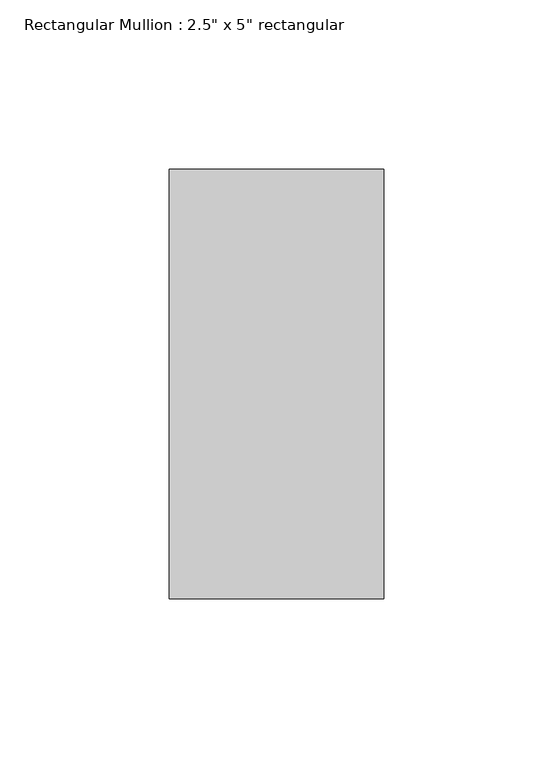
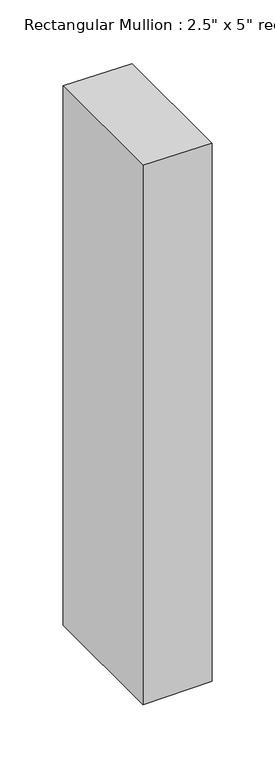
"""IFC4 building model written with IfcOpenShell, lengths in millimetres: member geometry."""

from ifc_helpers import new_model, si_unit, frame, origin, place, context, project, spatial, polyline, outline, extrude, source, transform, mapped, element, save


def member_6a3a2a88(model_context):
    return source(origin(), model_context, "Body", "SweptSolid", [
        extrude(outline(polyline([(0.0, 0.0), (0.6924853, -63.5), (-521.9050843, -63.5), (-521.2488124, 0.0), (0.0, 0.0)])), frame((0.0, -63.5, 0.0), z_axis=(0.0, 1.0, 0.0), x_axis=(0.0, 0.0, 1.0)), (0.0, 0.0, 1.0), 127.0),
    ])


if __name__ == "__main__":
    model = new_model("IFC4")
    model_context = context("Model", 3, world=origin())
    ifc_project = project(units=[si_unit("LENGTHUNIT", "METRE", prefix="MILLI")], contexts=[model_context])
    site = spatial("IfcSite", under=ifc_project)
    building = spatial("IfcBuilding", under=site)
    placement = place(None, origin())
    member_shape = member_6a3a2a88(model_context)
    element("IfcMember", 1, ObjectType="Rectangular Mullion : 2.5\" x 5\" rectangular", at=placement, inside=building, context=model_context, shape_type="MappedRepresentation", body=[
        mapped(member_shape, transform((0.0, 0.0, 0.0), x_axis=(1.0, 0.0, 0.0), y_axis=(0.0, 1.0, 0.0), z_axis=(0.0, 0.0, 1.0))),
    ])
    save(model, "model.ifc")
